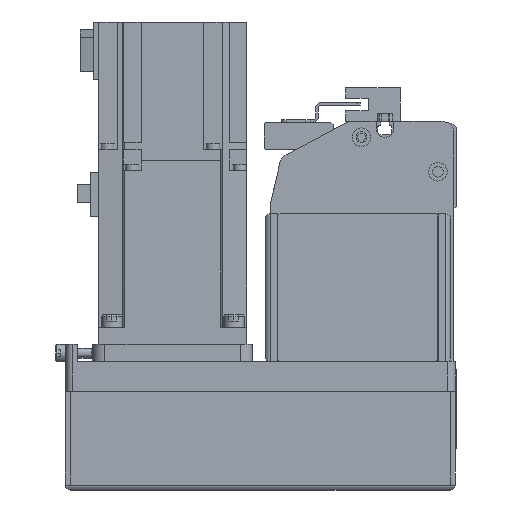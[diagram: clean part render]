
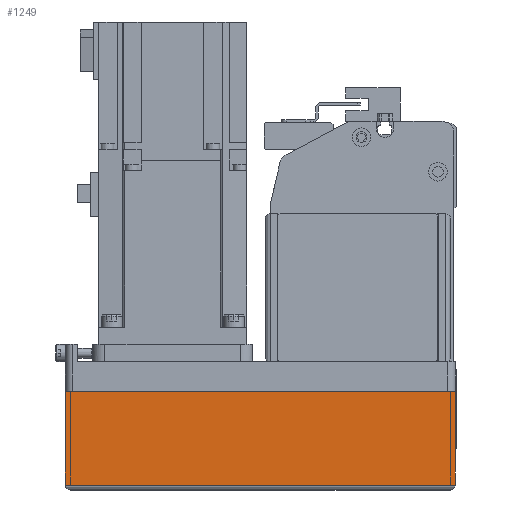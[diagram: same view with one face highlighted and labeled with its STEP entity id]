
A CAD part, left-side view. The second image highlights one B-rep face of the part: STEP entity #1249.
In plain terms, the highlighted planar face has unit normal (-1, 0, 0) as drawn and (0, -1, 0) by its records, which use the part's own axes.
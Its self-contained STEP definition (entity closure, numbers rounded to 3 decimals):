
#1249 = ADVANCED_FACE( '', ( #3389 ), #3390, .T. );
#3389 = FACE_OUTER_BOUND( '', #6758, .T. );
#3390 = PLANE( '', #6759 );
#6758 = EDGE_LOOP( '', ( #10264, #10265, #10266, #10267 ) );
#6759 = AXIS2_PLACEMENT_3D( '', #10268, #10269, #10270 );
#10264 = ORIENTED_EDGE( '', *, *, #19125, .F. );
#10265 = ORIENTED_EDGE( '', *, *, #19126, .F. );
#10266 = ORIENTED_EDGE( '', *, *, #19127, .T. );
#10267 = ORIENTED_EDGE( '', *, *, #19128, .T. );
#10268 = CARTESIAN_POINT( '', ( -158., -39., -12.1 ) );
#10269 = DIRECTION( '', ( 0., -1., 0. ) );
#10270 = DIRECTION( '', ( 0., 0., -1. ) );
#19125 = EDGE_CURVE( '', #22718, #22719, #22720, .T. );
#19126 = EDGE_CURVE( '', #22721, #22718, #22722, .T. );
#19127 = EDGE_CURVE( '', #22721, #22723, #22724, .T. );
#19128 = EDGE_CURVE( '', #22723, #22719, #22725, .T. );
#22718 = VERTEX_POINT( '', #27966 );
#22719 = VERTEX_POINT( '', #27967 );
#22720 = LINE( '', #27968, #27969 );
#22721 = VERTEX_POINT( '', #27970 );
#22722 = LINE( '', #27971, #27972 );
#22723 = VERTEX_POINT( '', #27973 );
#22724 = LINE( '', #27974, #27975 );
#22725 = LINE( '', #27976, #27977 );
#27966 = CARTESIAN_POINT( '', ( 0., -39., -12.1 ) );
#27967 = CARTESIAN_POINT( '', ( 0., -39., -50. ) );
#27968 = CARTESIAN_POINT( '', ( 0., -39., -12.1 ) );
#27969 = VECTOR( '', #35661, 1000. );
#27970 = CARTESIAN_POINT( '', ( -158., -39., -12.1 ) );
#27971 = CARTESIAN_POINT( '', ( -158., -39., -12.1 ) );
#27972 = VECTOR( '', #35662, 1000. );
#27973 = CARTESIAN_POINT( '', ( -158., -39., -50. ) );
#27974 = CARTESIAN_POINT( '', ( -158., -39., -12.1 ) );
#27975 = VECTOR( '', #35663, 1000. );
#27976 = CARTESIAN_POINT( '', ( -158., -39., -50. ) );
#27977 = VECTOR( '', #35664, 1000. );
#35661 = DIRECTION( '', ( 0., 0., -1. ) );
#35662 = DIRECTION( '', ( 1., 0., 0. ) );
#35663 = DIRECTION( '', ( 0., 0., -1. ) );
#35664 = DIRECTION( '', ( 1., 0., 0. ) );
